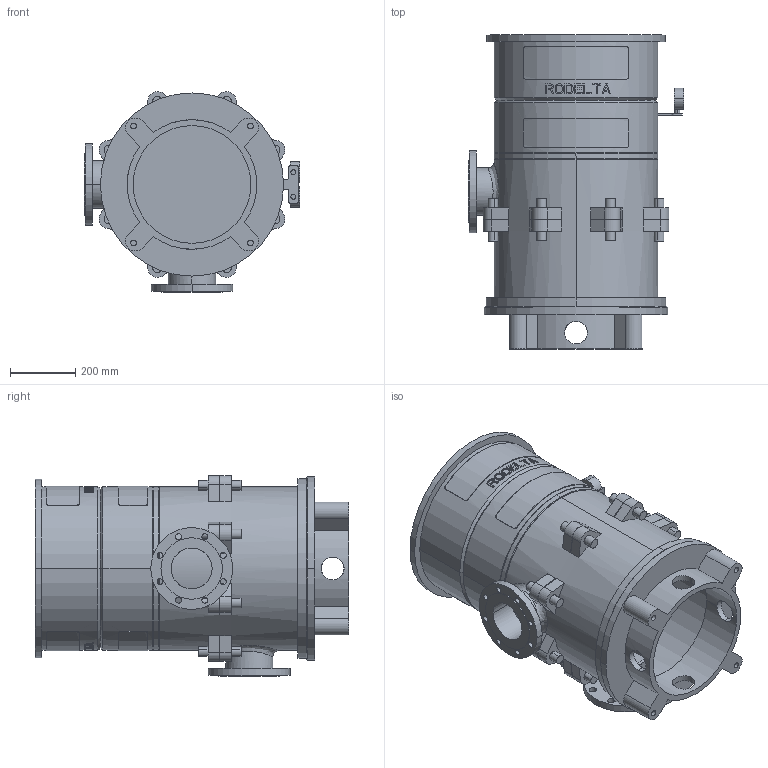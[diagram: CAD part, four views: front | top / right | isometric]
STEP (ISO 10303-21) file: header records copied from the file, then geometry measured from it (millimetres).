
FILE_DESCRIPTION((''),'2;1');
FILE_NAME('LS5_1TR_0GR_ABOVE_30KW','2023-08-08T',('Lyritlocal'),(''),'PRO/ENGINEER BY PARAMETRIC TECHNOLOGY CORPORATION, 2016360','PRO/ENGINEER BY PARAMETRIC TECHNOLOGY CORPORATION, 2016360','');
FILE_SCHEMA(('CONFIG_CONTROL_DESIGN'));
Length unit declared in the file: millimetre
Products named in the file (1): LS5_1TR_0GR_ABOVE_30KW
Bounding box: 660 x 960 x 614.04 mm (x, y, z)
Volume: 33717151.4 mm3; surface area: 4550025 mm2
Topology: 3 solids, 7 shells, 672 faces, 1749 edges, 1158 vertices
Faces by surface type: plane 414, cylinder 242, cone 12, bspline 4
Entity records: 22033 total; most frequent: CARTESIAN_POINT 5581, ORIENTED_EDGE 3482, DIRECTION 3271, EDGE_CURVE 1749, AXIS2_PLACEMENT_3D 1241, VERTEX_POINT 1158, EDGE_LOOP 807, VECTOR 789
